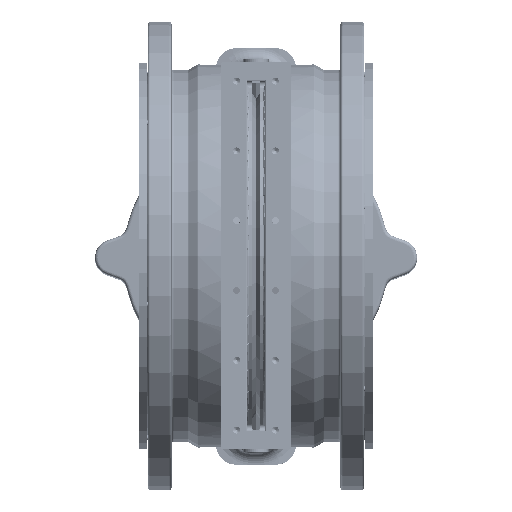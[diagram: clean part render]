
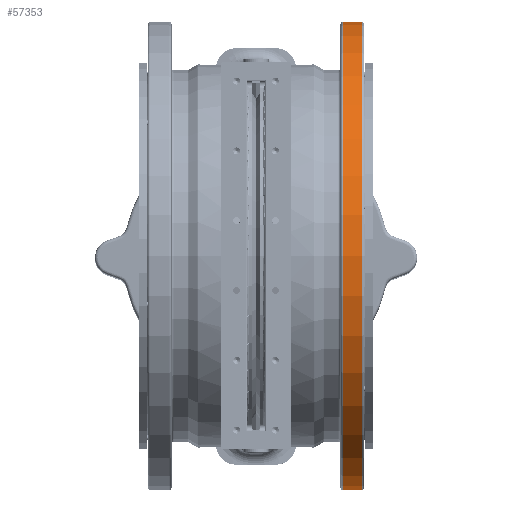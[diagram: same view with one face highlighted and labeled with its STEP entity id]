
A CAD part, top view. The second image highlights one B-rep face of the part: STEP entity #57353.
In plain terms, the highlighted cylindrical face has radius 295 mm (diameter 590 mm), a full revolution.
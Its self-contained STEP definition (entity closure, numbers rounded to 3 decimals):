
#5556=CYLINDRICAL_SURFACE('',#64068,295.);
#8465=LINE('',#136458,#11388);
#11388=VECTOR('',#80372,295.);
#15475=FACE_OUTER_BOUND('',#19182,.T.);
#19182=EDGE_LOOP('',(#52383,#52384,#52385,#52386,#52387));
#22978=CIRCLE('',#63953,295.);
#22979=CIRCLE('',#63954,295.);
#23058=CIRCLE('',#64069,295.);
#28257=VERTEX_POINT('',#129152);
#28258=VERTEX_POINT('',#129153);
#28299=VERTEX_POINT('',#136457);
#36306=EDGE_CURVE('',#28257,#28258,#22978,.T.);
#36307=EDGE_CURVE('',#28258,#28257,#22979,.T.);
#36413=EDGE_CURVE('',#28258,#28299,#8465,.T.);
#36414=EDGE_CURVE('',#28299,#28299,#23058,.T.);
#52383=ORIENTED_EDGE('',*,*,#36306,.T.);
#52384=ORIENTED_EDGE('',*,*,#36413,.T.);
#52385=ORIENTED_EDGE('',*,*,#36414,.F.);
#52386=ORIENTED_EDGE('',*,*,#36413,.F.);
#52387=ORIENTED_EDGE('',*,*,#36307,.T.);
#57353=ADVANCED_FACE('',(#15475),#5556,.T.);
#63953=AXIS2_PLACEMENT_3D('',#129154,#80126,#80127);
#63954=AXIS2_PLACEMENT_3D('',#129155,#80128,#80129);
#64068=AXIS2_PLACEMENT_3D('',#136456,#80370,#80371);
#64069=AXIS2_PLACEMENT_3D('',#136459,#80373,#80374);
#80126=DIRECTION('center_axis',(1.,0.,0.));
#80127=DIRECTION('ref_axis',(0.,0.,
-1.));
#80128=DIRECTION('center_axis',(1.,0.,0.));
#80129=DIRECTION('ref_axis',(0.,0.,
-1.));
#80370=DIRECTION('center_axis',(-1.,0.,0.));
#80371=DIRECTION('ref_axis',(0.,0.,
-1.));
#80372=DIRECTION('',(1.,0.,0.));
#80373=DIRECTION('center_axis',(1.,0.,0.));
#80374=DIRECTION('ref_axis',(0.,0.,
-1.));
#129152=CARTESIAN_POINT('',(109.5,0.,-295.));
#129153=CARTESIAN_POINT('',(109.5,0.,295.));
#129154=CARTESIAN_POINT('Origin',(109.5,0.,
0.));
#129155=CARTESIAN_POINT('Origin',(109.5,0.,
0.));
#136456=CARTESIAN_POINT('Origin',(131.5,0.,
0.));
#136457=CARTESIAN_POINT('',(133.5,0.,295.));
#136458=CARTESIAN_POINT('',(131.5,0.,295.));
#136459=CARTESIAN_POINT('Origin',(133.5,0.,
0.));
